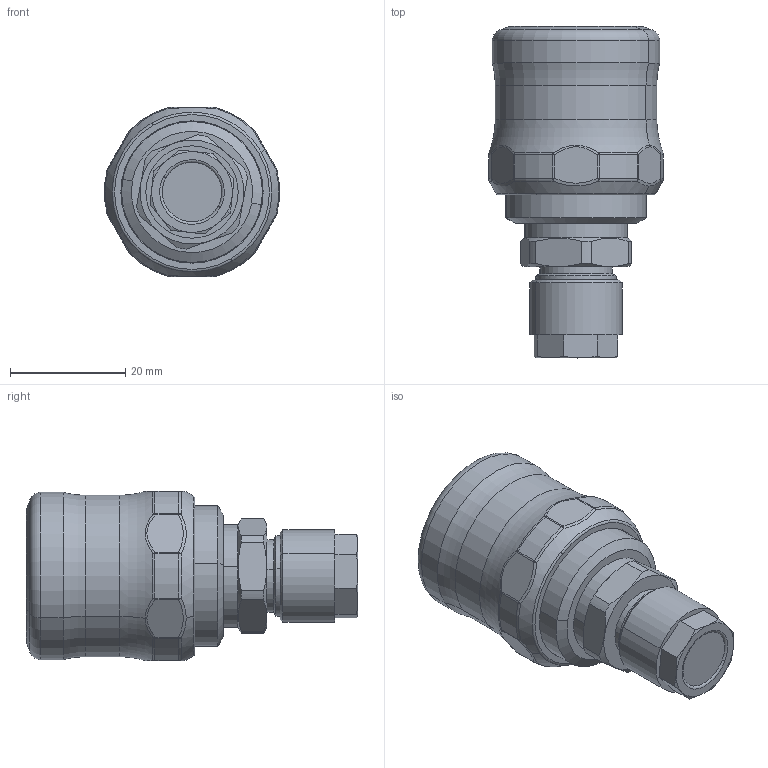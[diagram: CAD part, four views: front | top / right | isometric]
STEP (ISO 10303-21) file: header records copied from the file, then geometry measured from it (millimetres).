
FILE_DESCRIPTION (( 'STEP AP214' ), '1' );
FILE_NAME ('0066400005.step', '2012-11-19T11:08:48', ( '' ), ( '' ), 'SwSTEP 2.0', 'SolidWorks 2012', '' );
FILE_SCHEMA (( 'AUTOMOTIVE_DESIGN' ));
Length unit declared in the file: millimetre
Products named in the file (1): 0066400005
Bounding box: 30.29 x 57.5 x 29.4 mm (x, y, z)
Volume: 25626.9 mm3; surface area: 6085.5 mm2
Topology: 1 solids, 1 shells, 197 faces, 444 edges, 259 vertices
Faces by surface type: cylinder 63, plane 41, cone 33, torus 24, sphere 24, bspline 12
Entity records: 8421 total; most frequent: CARTESIAN_POINT 1891, DIRECTION 1005, ORIENTED_EDGE 888, EDGE_CURVE 444, AXIS2_PLACEMENT_3D 439, VERTEX_POINT 259, CIRCLE 253, EDGE_LOOP 207
